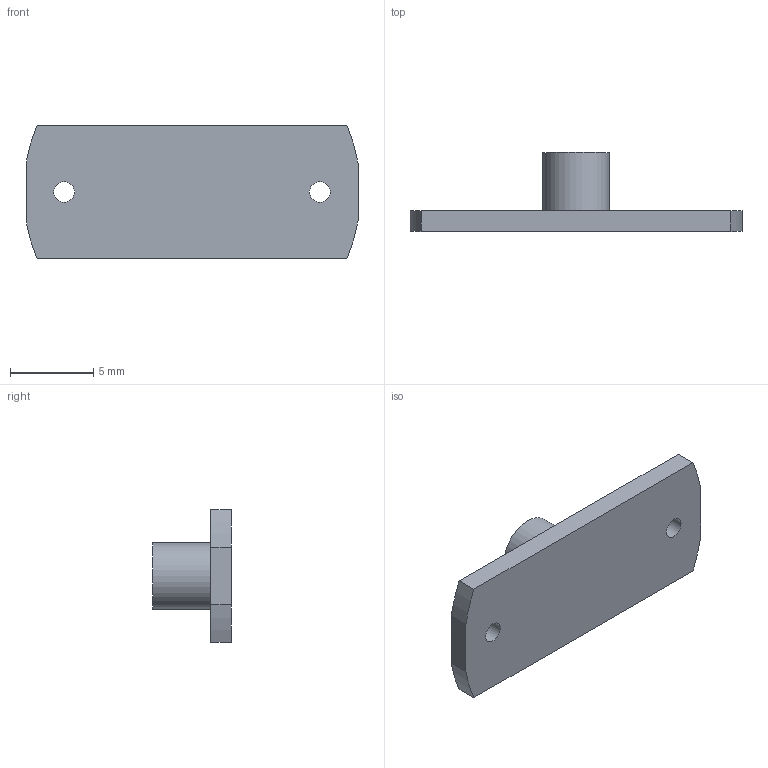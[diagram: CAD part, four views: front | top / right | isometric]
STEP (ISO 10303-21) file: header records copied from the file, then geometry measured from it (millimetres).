
FILE_DESCRIPTION(('Open CASCADE Model'),'2;1');
FILE_NAME('PLAY_RIGID_DRIVE_BRIDGE','2026-09-06T11:49:22',('Author'),( 'Open CASCADE'),'Open CASCADE STEP processor 7.8','build123d', 'Unknown');
FILE_SCHEMA(('AUTOMOTIVE_DESIGN { 1 0 10303 214 1 1 1 1 }'));
Length unit declared in the file: millimetre
Products named in the file (1): PLAY_RIGID_DRIVE_BRIDGE
Bounding box: 20 x 4.75 x 8 mm (x, y, z)
Volume: 237.7 mm3; surface area: 430.8 mm2
Topology: 1 solids, 1 shells, 14 faces, 33 edges, 22 vertices
Faces by surface type: plane 7, cylinder 7
Full cylindrical faces by diameter (mm): 1.25 x2, 4 x1
Entity records: 884 total; most frequent: CARTESIAN_POINT 236, DIRECTION 113, ORIENTED_EDGE 66, PCURVE 66, DEFINITIONAL_REPRESENTATION 66, LINE 55, VECTOR 55, EDGE_CURVE 33
